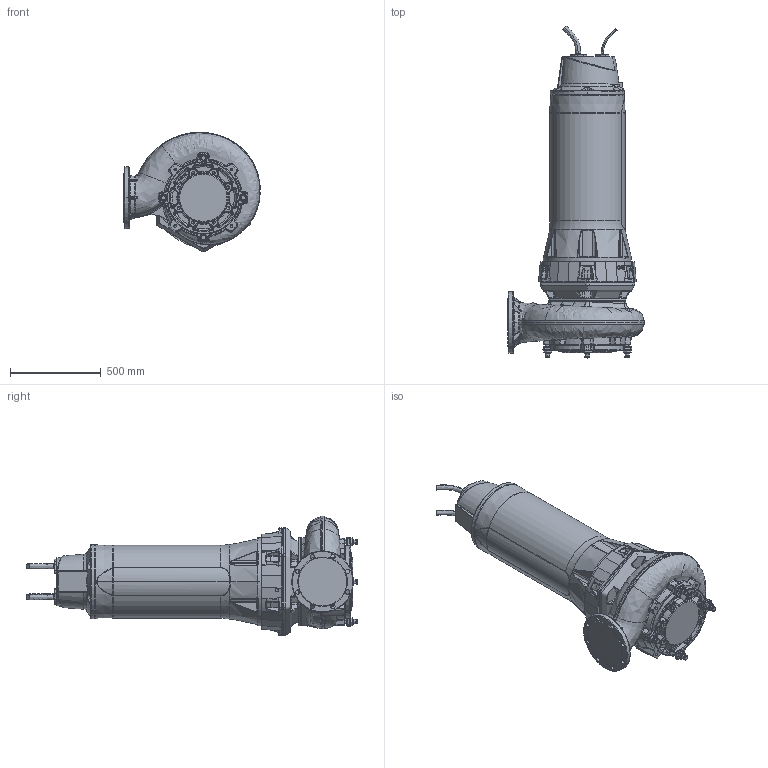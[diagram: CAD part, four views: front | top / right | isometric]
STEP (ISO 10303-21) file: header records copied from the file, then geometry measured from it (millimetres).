
FILE_DESCRIPTION (( 'STEP AP214' ), '1' );
FILE_NAME ('PE5_XFP205J-CB2_MOTOR OK_B_NG2.STEP', '2017-02-17T10:17:44', ( '' ), ( '' ), 'SwSTEP 2.0', 'SolidWorks 2017', '' );
FILE_SCHEMA (( 'AUTOMOTIVE_DESIGN' ));
Length unit declared in the file: millimetre
Products named in the file (1): PE5_XFP205J-CB2_MOTOR OK_B_NG2
Bounding box: 754.1 x 1832.58 x 659.09 mm (x, y, z)
Volume: 255977026.3 mm3; surface area: 3390493.3 mm2
Topology: 1 solids, 16 shells, 2839 faces, 7067 edges, 4229 vertices
Faces by surface type: bspline 930, plane 696, cylinder 514, cone 348, torus 312, sphere 39
Entity records: 201518 total; most frequent: CARTESIAN_POINT 110643, ORIENTED_EDGE 13956, DIRECTION 10575, EDGE_CURVE 6978, AXIS2_PLACEMENT_3D 4333, VERTEX_POINT 4229, EDGE_LOOP 2939, UNCERTAINTY_MEASURE_WITH_UNIT 2842
